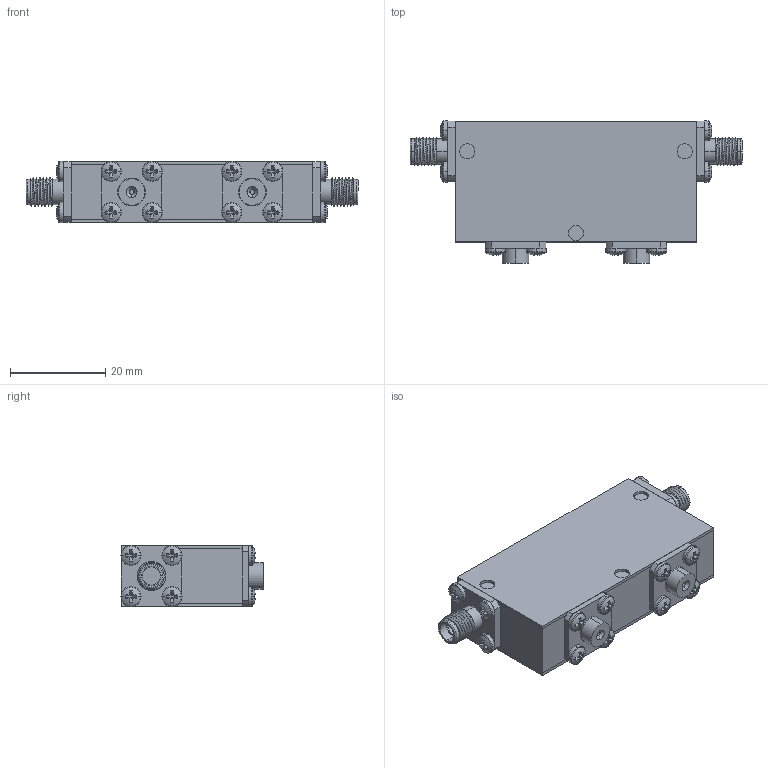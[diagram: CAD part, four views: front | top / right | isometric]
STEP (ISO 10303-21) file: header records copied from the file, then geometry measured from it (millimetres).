
FILE_DESCRIPTION (( 'STEP AP214' ), '1' );
FILE_NAME ('Package 14 Iso FF.step', '2021-12-01T20:58:07', ( '' ), ( '' ), 'SwSTEP 2.0', 'SolidWorks 2016', '' );
FILE_SCHEMA (( 'AUTOMOTIVE_DESIGN' ));
Length unit declared in the file: inch
Products named in the file (6): Delta SMA-Female 0.500 flange Threaded; Package 14; 030013-1A; Package Size 14; pan cross head_ai_CR-PHMS 0.086-56x0.125x0.125-N; Package 14 Iso FF
Assembly tree (22 placements, depth 2):
  Package 14 Iso FF
    Package 14
    Delta SMA-Female 0.500 flange Threaded  x2
    030013-1A  x2
    pan cross head_ai_CR-PHMS 0.086-56x0.125x0.125-N  x16
    Package Size 14
Bounding box: 69.85 x 29.93 x 12.88 mm (x, y, z)
Volume: 17844.4 mm3; surface area: 14025.7 mm2
Topology: 22 solids, 22 shells, 538 faces, 1222 edges, 754 vertices
Faces by surface type: plane 296, cylinder 156, torus 40, sphere 32, cone 8, bspline 6
Entity records: 4805 total; most frequent: CARTESIAN_POINT 1374, DIRECTION 727, ORIENTED_EDGE 594, EDGE_CURVE 297, AXIS2_PLACEMENT_3D 294, VERTEX_POINT 191, EDGE_LOOP 160, CIRCLE 150
